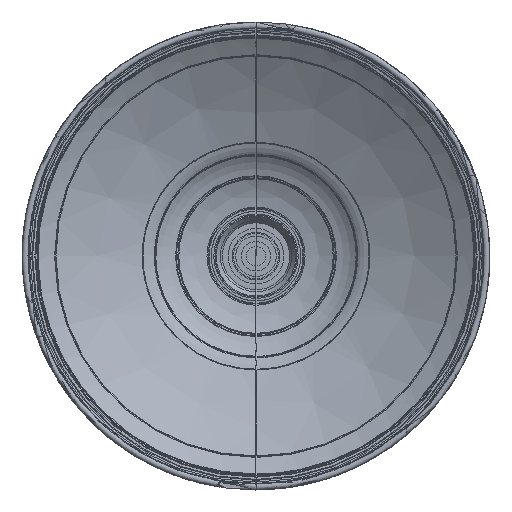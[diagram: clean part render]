
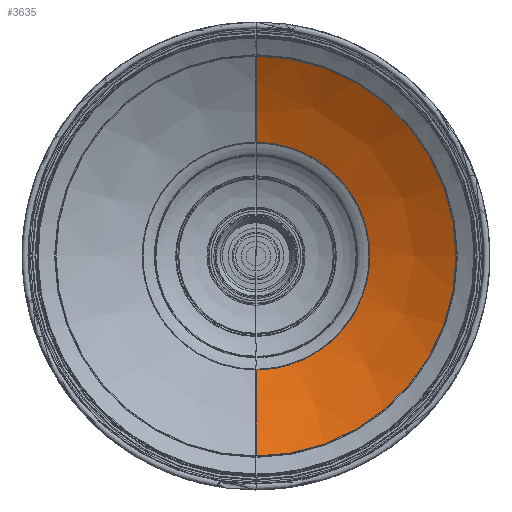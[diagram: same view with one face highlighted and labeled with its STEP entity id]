
A CAD part, top view. The second image highlights one B-rep face of the part: STEP entity #3635.
In plain terms, the highlighted free-form (B-spline) face has degree [2, 2] with [3, 5] control points.
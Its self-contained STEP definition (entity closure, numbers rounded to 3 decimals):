
#65=(
BOUNDED_SURFACE()
B_SPLINE_SURFACE(2,2,((#9789,#9790,#9791,#9792,#9793),(#9794,#9795,#9796,
#9797,#9798),(#9799,#9800,#9801,#9802,#9803)),.UNSPECIFIED.,.F.,.F.,.F.)
B_SPLINE_SURFACE_WITH_KNOTS((3,3),(3,2,3),(-1.255,-0.967),
(-1.571,0.,1.571),.UNSPECIFIED.)
GEOMETRIC_REPRESENTATION_ITEM()
RATIONAL_B_SPLINE_SURFACE(((1.,0.707,1.,0.707,1.),
(0.99,0.7,0.99,0.7,
0.99),(1.,0.707,1.,0.707,1.)))
REPRESENTATION_ITEM('')
SURFACE()
);
#169=B_SPLINE_CURVE_WITH_KNOTS('',3,(#9736,#9737,#9738,#9739,#9740,#9741,
#9742,#9743,#9744,#9745,#9746,#9747),.UNSPECIFIED.,.F.,.F.,(4,1,1,1,1,1,
1,1,1,4),(0.,0.111,0.222,0.333,0.444,
0.556,0.667,0.778,0.889,
1.),.UNSPECIFIED.);
#650=FACE_OUTER_BOUND('',#923,.T.);
#923=EDGE_LOOP('',(#3085,#3086,#3087,#3088));
#1450=CIRCLE('',#4055,253.29);
#1451=CIRCLE('',#4056,149.607);
#1452=CIRCLE('',#4057,253.29);
#1728=VERTEX_POINT('',#9706);
#1729=VERTEX_POINT('',#9735);
#1730=VERTEX_POINT('',#9804);
#1731=VERTEX_POINT('',#9806);
#2179=EDGE_CURVE('',#1729,#1728,#169,.T.);
#2182=EDGE_CURVE('',#1730,#1728,#1450,.T.);
#2183=EDGE_CURVE('',#1731,#1730,#1451,.T.);
#2184=EDGE_CURVE('',#1729,#1731,#1452,.T.);
#3085=ORIENTED_EDGE('',*,*,#2179,.T.);
#3086=ORIENTED_EDGE('',*,*,#2182,.F.);
#3087=ORIENTED_EDGE('',*,*,#2183,.F.);
#3088=ORIENTED_EDGE('',*,*,#2184,.F.);
#3635=ADVANCED_FACE('',(#650),#65,.T.);
#4055=AXIS2_PLACEMENT_3D('',#9805,#4976,#4977);
#4056=AXIS2_PLACEMENT_3D('',#9807,#4978,#4979);
#4057=AXIS2_PLACEMENT_3D('',#9808,#4980,#4981);
#4976=DIRECTION('center_axis',(1.,0.,0.));
#4977=DIRECTION('ref_axis',(0.,-1.,0.));
#4978=DIRECTION('center_axis',(0.,0.,
-1.));
#4979=DIRECTION('ref_axis',(1.,0.,0.));
#4980=DIRECTION('center_axis',(1.,0.,0.));
#4981=DIRECTION('ref_axis',(0.,1.,0.));
#9706=CARTESIAN_POINT('',(0.,-84.541,104.589));
#9735=CARTESIAN_POINT('',(0.,84.541,104.589));
#9736=CARTESIAN_POINT('Ctrl Pts',(0.,84.541,
104.589));
#9737=CARTESIAN_POINT('Ctrl Pts',(9.862,84.612,104.589));
#9738=CARTESIAN_POINT('Ctrl Pts',(29.496,81.04,104.589));
#9739=CARTESIAN_POINT('Ctrl Pts',(55.46,66.1,104.589));
#9740=CARTESIAN_POINT('Ctrl Pts',(74.716,43.135,104.589));
#9741=CARTESIAN_POINT('Ctrl Pts',(84.965,14.982,104.589));
#9742=CARTESIAN_POINT('Ctrl Pts',(84.965,-14.982,104.589));
#9743=CARTESIAN_POINT('Ctrl Pts',(74.716,-43.135,104.589));
#9744=CARTESIAN_POINT('Ctrl Pts',(55.46,-66.1,104.589));
#9745=CARTESIAN_POINT('Ctrl Pts',(29.496,-81.04,104.589));
#9746=CARTESIAN_POINT('Ctrl Pts',(9.862,-84.612,104.589));
#9747=CARTESIAN_POINT('Ctrl Pts',(0.,-84.541,
104.589));
#9789=CARTESIAN_POINT('Ctrl Pts',(0.,-84.527,
104.584));
#9790=CARTESIAN_POINT('Ctrl Pts',(84.527,-84.527,104.584));
#9791=CARTESIAN_POINT('Ctrl Pts',(84.527,0.,
104.584));
#9792=CARTESIAN_POINT('Ctrl Pts',(84.527,84.527,104.584));
#9793=CARTESIAN_POINT('Ctrl Pts',(0.,84.527,
104.584));
#9794=CARTESIAN_POINT('Ctrl Pts',(0.,-119.403,
115.992));
#9795=CARTESIAN_POINT('Ctrl Pts',(119.403,-119.403,115.992));
#9796=CARTESIAN_POINT('Ctrl Pts',(119.403,0.,
115.992));
#9797=CARTESIAN_POINT('Ctrl Pts',(119.403,119.403,115.992));
#9798=CARTESIAN_POINT('Ctrl Pts',(0.,119.403,
115.992));
#9799=CARTESIAN_POINT('Ctrl Pts',(0.,-149.607,
136.828));
#9800=CARTESIAN_POINT('Ctrl Pts',(149.607,-149.607,136.828));
#9801=CARTESIAN_POINT('Ctrl Pts',(149.607,0.,
136.828));
#9802=CARTESIAN_POINT('Ctrl Pts',(149.607,149.607,136.828));
#9803=CARTESIAN_POINT('Ctrl Pts',(0.,149.607,
136.828));
#9804=CARTESIAN_POINT('',(0.,-149.607,136.828));
#9805=CARTESIAN_POINT('Origin',(0.,-5.78,
345.322));
#9806=CARTESIAN_POINT('',(0.,149.607,136.828));
#9807=CARTESIAN_POINT('Origin',(0.,0.,
136.828));
#9808=CARTESIAN_POINT('Origin',(0.,5.78,345.322));
